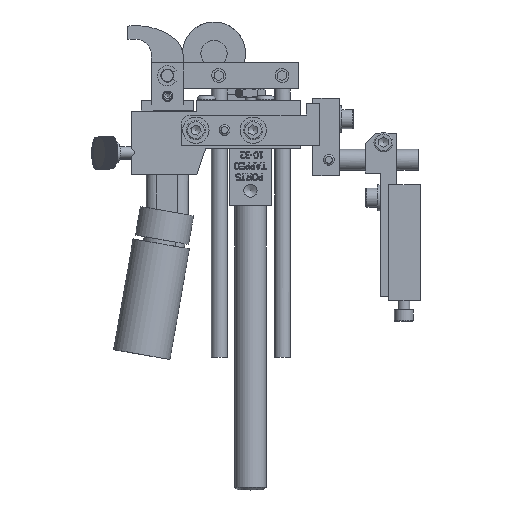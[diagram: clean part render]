
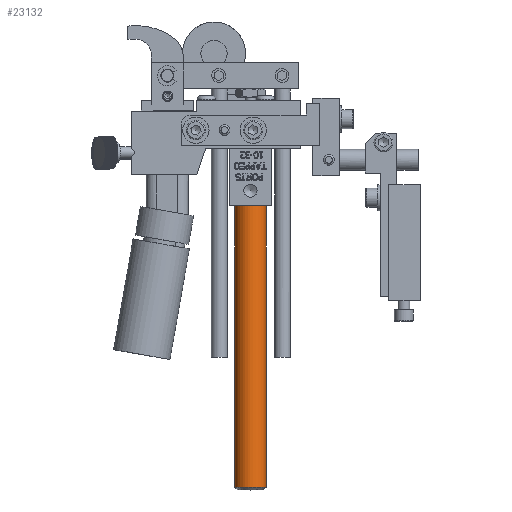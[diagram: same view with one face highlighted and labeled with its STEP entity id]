
A CAD part, top view. The second image highlights one B-rep face of the part: STEP entity #23132.
In plain terms, the highlighted cylindrical face has radius 4.763 mm (diameter 9.525 mm), a full revolution.
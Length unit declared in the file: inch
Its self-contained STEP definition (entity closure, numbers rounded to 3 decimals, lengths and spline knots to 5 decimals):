
#23101=CARTESIAN_POINT('',(0.44163,-4.93233,-0.0475));
#23102=VERTEX_POINT('',#23101);
#23103=CARTESIAN_POINT('',(0.44163,-4.93233,-0.235));
#23104=DIRECTION('',(0.0,-1.0,0.0));
#23105=DIRECTION('',(0.0,0.0,-1.0));
#23106=AXIS2_PLACEMENT_3D('',#23103,#23104,#23105);
#23107=CIRCLE('',#23106,0.1875);
#23108=EDGE_CURVE('',#23102,#23102,#23107,.T.);
#23113=CARTESIAN_POINT('',(0.44163,-1.58733,-0.235));
#23114=DIRECTION('',(0.,-1.0,0.));
#23115=DIRECTION('',(0.0,0.0,-1.0));
#23116=AXIS2_PLACEMENT_3D('',#23113,#23114,#23115);
#23117=CYLINDRICAL_SURFACE('',#23116,0.1875);
#23118=CARTESIAN_POINT('',(0.44163,-1.58733,-0.0475));
#23119=VERTEX_POINT('',#23118);
#23120=CARTESIAN_POINT('',(0.44163,-1.58733,-0.235));
#23121=DIRECTION('',(0.0,1.0,0.0));
#23122=DIRECTION('',(0.0,0.0,-1.0));
#23123=AXIS2_PLACEMENT_3D('',#23120,#23121,#23122);
#23124=CIRCLE('',#23123,0.1875);
#23125=EDGE_CURVE('',#23119,#23119,#23124,.T.);
#23126=ORIENTED_EDGE('',*,*,#23125,.F.);
#23127=EDGE_LOOP('',(#23126));
#23128=FACE_OUTER_BOUND('',#23127,.T.);
#23129=ORIENTED_EDGE('',*,*,#23108,.F.);
#23130=EDGE_LOOP('',(#23129));
#23131=FACE_BOUND('',#23130,.T.);
#23132=ADVANCED_FACE('',(#23128,#23131),#23117,.T.);
